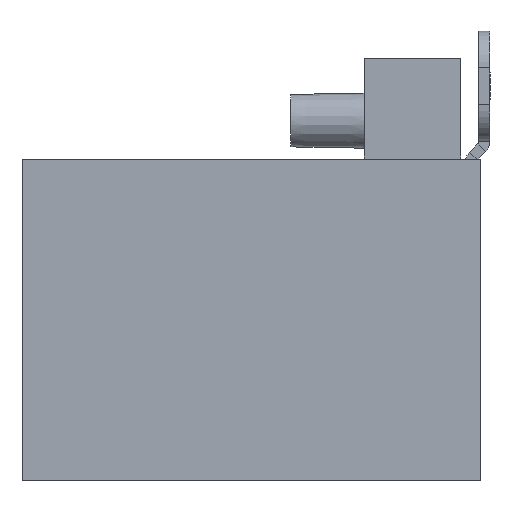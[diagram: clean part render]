
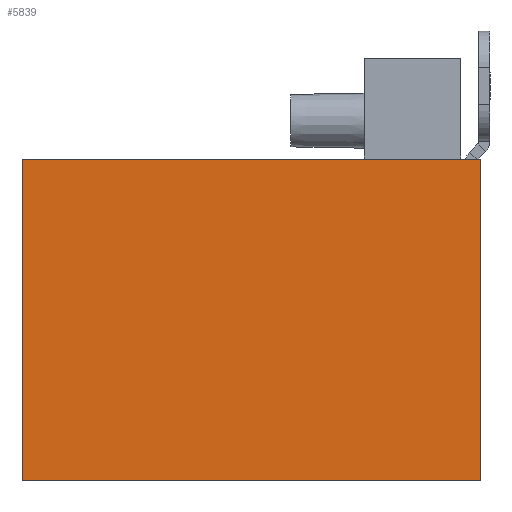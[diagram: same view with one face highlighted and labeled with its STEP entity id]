
A CAD part, left-side view. The second image highlights one B-rep face of the part: STEP entity #5839.
In plain terms, the highlighted planar face has unit normal (-1, 0, 0) as drawn and (0, 0, 1) by its records, which use the part's own axes.
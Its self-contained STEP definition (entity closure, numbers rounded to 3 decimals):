
#273 = EDGE_CURVE ( 'NONE', #1988, #4828, #3860, .T. ) ;
#452 = CARTESIAN_POINT ( 'NONE',  ( 0., 0., 0. ) ) ;
#492 = ORIENTED_EDGE ( 'NONE', *, *, #1062, .T. ) ;
#856 = CARTESIAN_POINT ( 'NONE',  ( 50., 35., 0. ) ) ;
#1038 = AXIS2_PLACEMENT_3D ( 'NONE', #1443, #2151, #6968 ) ;
#1062 = EDGE_CURVE ( 'NONE', #5005, #4828, #5531, .T. ) ;
#1442 = CARTESIAN_POINT ( 'NONE',  ( 0., 35., 0. ) ) ;
#1443 = CARTESIAN_POINT ( 'NONE',  ( 0., 35., 0. ) ) ;
#1789 = VECTOR ( 'NONE', #2886, 1000. ) ;
#1843 = VECTOR ( 'NONE', #7211, 1000. ) ;
#1925 = CARTESIAN_POINT ( 'NONE',  ( 0., 35., 0. ) ) ;
#1988 = VERTEX_POINT ( 'NONE', #856 ) ;
#1994 = VECTOR ( 'NONE', #3386, 1000. ) ;
#2151 = DIRECTION ( 'NONE',  ( 0., 0., -1. ) ) ;
#2198 = CARTESIAN_POINT ( 'NONE',  ( 50., 0., 0. ) ) ;
#2204 = EDGE_LOOP ( 'NONE', ( #492, #6759, #4677, #7904 ) ) ;
#2886 = DIRECTION ( 'NONE',  ( 0., -1., 0. ) ) ;
#3118 = CARTESIAN_POINT ( 'NONE',  ( 50., 35., 0. ) ) ;
#3371 = LINE ( 'NONE', #1925, #7019 ) ;
#3386 = DIRECTION ( 'NONE',  ( 0., -1., 0. ) ) ;
#3677 = FACE_OUTER_BOUND ( 'NONE', #2204, .T. ) ;
#3860 = LINE ( 'NONE', #3118, #1994 ) ;
#4206 = EDGE_CURVE ( 'NONE', #6735, #5005, #8208, .T. ) ;
#4677 = ORIENTED_EDGE ( 'NONE', *, *, #8560, .F. ) ;
#4828 = VERTEX_POINT ( 'NONE', #2198 ) ;
#5005 = VERTEX_POINT ( 'NONE', #452 ) ;
#5531 = LINE ( 'NONE', #7233, #1843 ) ;
#5839 = ADVANCED_FACE ( 'NONE', ( #3677 ), #6276, .F. ) ;
#6276 = PLANE ( 'NONE',  #1038 ) ;
#6735 = VERTEX_POINT ( 'NONE', #8632 ) ;
#6739 = DIRECTION ( 'NONE',  ( 1., 0., 0. ) ) ;
#6759 = ORIENTED_EDGE ( 'NONE', *, *, #273, .F. ) ;
#6968 = DIRECTION ( 'NONE',  ( -1., 0., 0. ) ) ;
#7019 = VECTOR ( 'NONE', #6739, 1000. ) ;
#7211 = DIRECTION ( 'NONE',  ( 1., 0., 0. ) ) ;
#7233 = CARTESIAN_POINT ( 'NONE',  ( 0., 0., 0. ) ) ;
#7904 = ORIENTED_EDGE ( 'NONE', *, *, #4206, .T. ) ;
#8208 = LINE ( 'NONE', #1442, #1789 ) ;
#8560 = EDGE_CURVE ( 'NONE', #6735, #1988, #3371, .T. ) ;
#8632 = CARTESIAN_POINT ( 'NONE',  ( 0., 35., 0. ) ) ;
